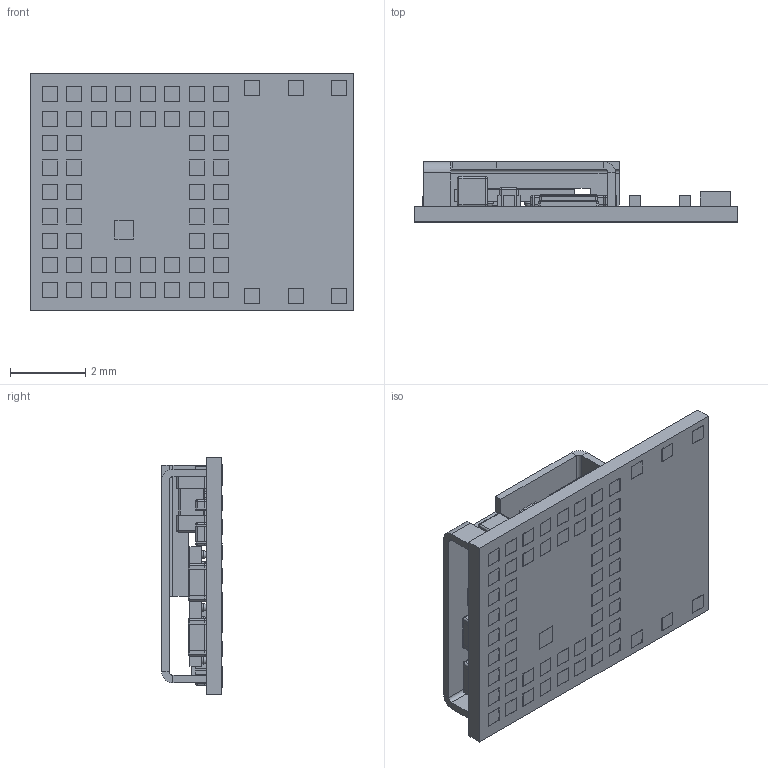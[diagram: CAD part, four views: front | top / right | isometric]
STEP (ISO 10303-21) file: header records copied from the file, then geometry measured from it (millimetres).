
FILE_DESCRIPTION (( 'STEP AP214' ), '1' );
FILE_NAME ('453-00059.STEP', '2020-08-19T06:57:11', ( '' ), ( '' ), 'SwSTEP 2.0', 'SolidWorks 2019', '' );
FILE_SCHEMA (( 'AUTOMOTIVE_DESIGN' ));
Length unit declared in the file: millimetre
Products named in the file (4): 940-00107; 750-03245; 110-00747_453-00059-SA; 453-00059
Assembly tree (3 placements, depth 3):
  453-00059
    940-00107
      750-03245
      110-00747_453-00059-SA
Bounding box: 8.6 x 1.61 x 6.3 mm (x, y, z)
Volume: 36.3 mm3; surface area: 358.7 mm2
Topology: 140 solids, 140 shells, 2541 faces, 6321 edges, 4052 vertices
Faces by surface type: plane 1514, bspline 428, cylinder 337, sphere 262
Entity records: 108240 total; most frequent: CARTESIAN_POINT 30222, ORIENTED_EDGE 11818, DIRECTION 10311, EDGE_CURVE 5909, VECTOR 4083, LINE 4083, VERTEX_POINT 3902, AXIS2_PLACEMENT_3D 3114
